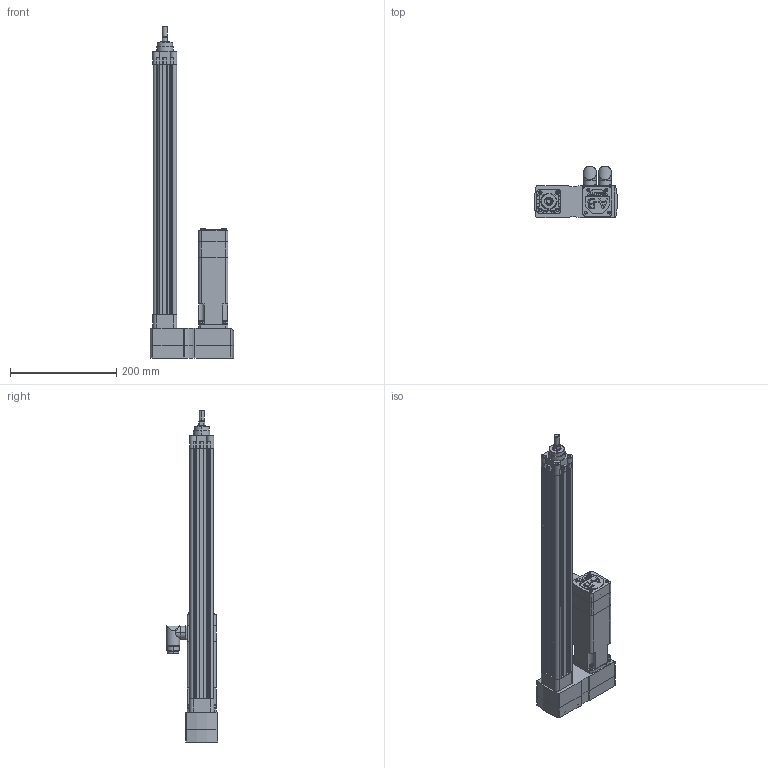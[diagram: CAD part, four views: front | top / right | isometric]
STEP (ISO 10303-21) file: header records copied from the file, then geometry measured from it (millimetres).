
FILE_DESCRIPTION (( 'STEP AP214' ), '1' );
FILE_NAME ('Rockwell Automation-MPAR-32DIA-10LEAD-MPAR-X1400E-V4E.STEP', '2011-11-03T15:47:28', ( 'sysAdmin' ), ( 'SolidWorks' ), 'SwSTEP 2.0', 'SolidWorks 2012', '' );
FILE_SCHEMA (( 'AUTOMOTIVE_DESIGN' ));
Length unit declared in the file: millimetre
Products named in the file (15): Rockwell Automation-MPAR-32DIA-10LEAD-MPAR-X1400E-V4E_PRT0006-543122; Rockwell Automation-MPAR-32DIA-10LEAD-MPAR-X1400E-V4E_PRT0005-543122; Rockwell Automation-MPAR-32DIA-10LEAD-MPAR-X1400E-V4E_MPL-x1530F-V-X206_MPL-x1530x-xJ44AA; Rockwell Automation-MPAR-32DIA-10LEAD-MPAR-X1400E-V4E_MPL-x1530x-xJ44AA_MPL-15xx-Feedback Connector; Rockwell Automation-MPAR-32DIA-10LEAD-MPAR-X1400E-V4E_MPL-x1530x-xJ44AA_MPL-15xx-Power Connector; Rockwell Automation-MPAR-32DIA-10LEAD-MPAR-X1400E-V4E_MPL-x1530x-xJ44AA_MPL-15xx-Shaft-Key_1530-SHAFT-KEYED-BRAKE; Rockwell Automation-MPAR-32DIA-10LEAD-MPAR-X1400E-V4E_MPL-x1530x-xJ44AA_MPL-15xx-Body_1530-BRAKE; Rockwell Automation-MPAR-32DIA-10LEAD-MPAR-X1400E-V4E_627500; Rockwell Automation-MPAR-32DIA-10LEAD-MPAR-X1400E-V4E_627500_200048_2; Rockwell Automation-MPAR-32DIA-10LEAD-MPAR-X1400E-V4E_627500_223541_3; Rockwell Automation-MPAR-32DIA-10LEAD-MPAR-X1400E-V4E_627500_200671_1; Rockwell Automation-MPAR-32DIA-10LEAD-MPAR-X1400E-V4E_627500_1210151; Rockwell Automation-MPAR-32DIA-10LEAD-MPAR-X1400E-V4E_627500_1210193; Rockwell Automation-MPAR-32DIA-10LEAD-MPAR-X1400E-V4E; Rockwell Automation-MPAR-32DIA-10LEAD-MPAR-X1400E-V4E_MPAR-x1400x
Assembly tree (24 placements, depth 3):
  Rockwell Automation-MPAR-32DIA-10LEAD-MPAR-X1400E-V4E
    Rockwell Automation-MPAR-32DIA-10LEAD-MPAR-X1400E-V4E_627500
      Rockwell Automation-MPAR-32DIA-10LEAD-MPAR-X1400E-V4E_627500_1210193
      Rockwell Automation-MPAR-32DIA-10LEAD-MPAR-X1400E-V4E_627500_1210151
      Rockwell Automation-MPAR-32DIA-10LEAD-MPAR-X1400E-V4E_627500_200671_1  x4
      Rockwell Automation-MPAR-32DIA-10LEAD-MPAR-X1400E-V4E_627500_223541_3  x4
      Rockwell Automation-MPAR-32DIA-10LEAD-MPAR-X1400E-V4E_627500_200048_2  x5
    Rockwell Automation-MPAR-32DIA-10LEAD-MPAR-X1400E-V4E_MPL-x1530F-V-X206_MPL-x1530x-xJ44AA
      Rockwell Automation-MPAR-32DIA-10LEAD-MPAR-X1400E-V4E_MPL-x1530x-xJ44AA_MPL-15xx-Body_1530-BRAKE
      Rockwell Automation-MPAR-32DIA-10LEAD-MPAR-X1400E-V4E_MPL-x1530x-xJ44AA_MPL-15xx-Shaft-Key_1530-SHAFT-KEYED-BRAKE
      Rockwell Automation-MPAR-32DIA-10LEAD-MPAR-X1400E-V4E_MPL-x1530x-xJ44AA_MPL-15xx-Power Connector
      Rockwell Automation-MPAR-32DIA-10LEAD-MPAR-X1400E-V4E_MPL-x1530x-xJ44AA_MPL-15xx-Feedback Connector
    Rockwell Automation-MPAR-32DIA-10LEAD-MPAR-X1400E-V4E_MPAR-x1400x
      Rockwell Automation-MPAR-32DIA-10LEAD-MPAR-X1400E-V4E_PRT0005-543122
      Rockwell Automation-MPAR-32DIA-10LEAD-MPAR-X1400E-V4E_PRT0006-543122
Bounding box: 156.61 x 96.6 x 626 mm (x, y, z)
Volume: 1395192.5 mm3; surface area: 407821.7 mm2
Topology: 25 solids, 25 shells, 1719 faces, 4114 edges, 2564 vertices
Faces by surface type: plane 677, cylinder 586, cone 294, bspline 114, torus 48
Entity records: 45560 total; most frequent: CARTESIAN_POINT 10428, DIRECTION 7516, ORIENTED_EDGE 6844, EDGE_CURVE 3422, AXIS2_PLACEMENT_3D 2839, VERTEX_POINT 2144, VECTOR 1838, LINE 1838
